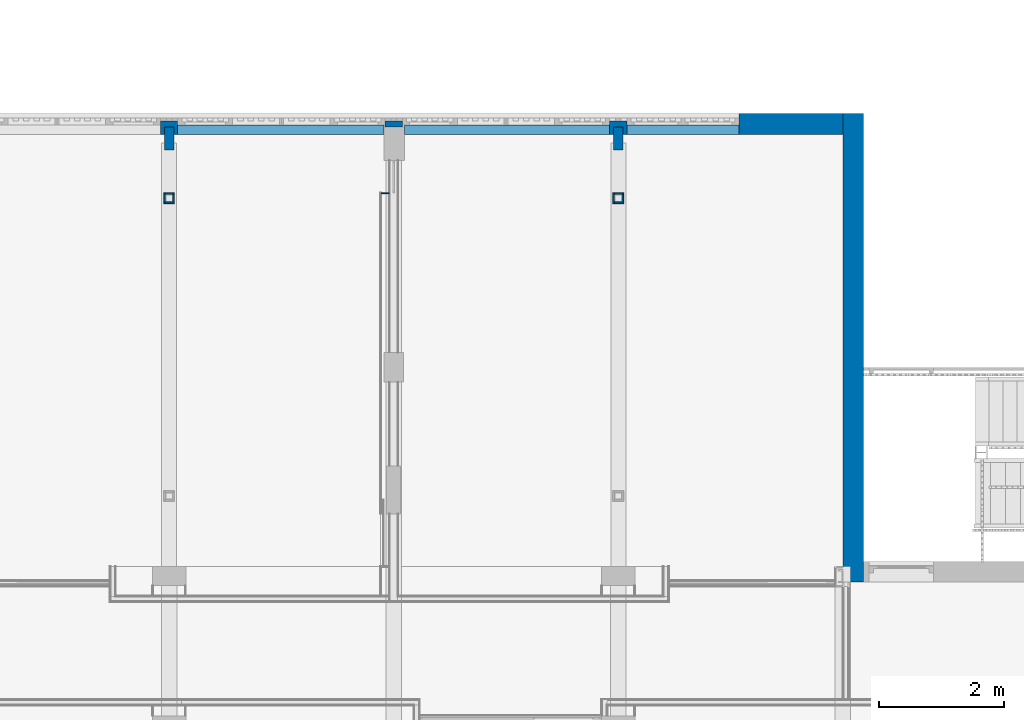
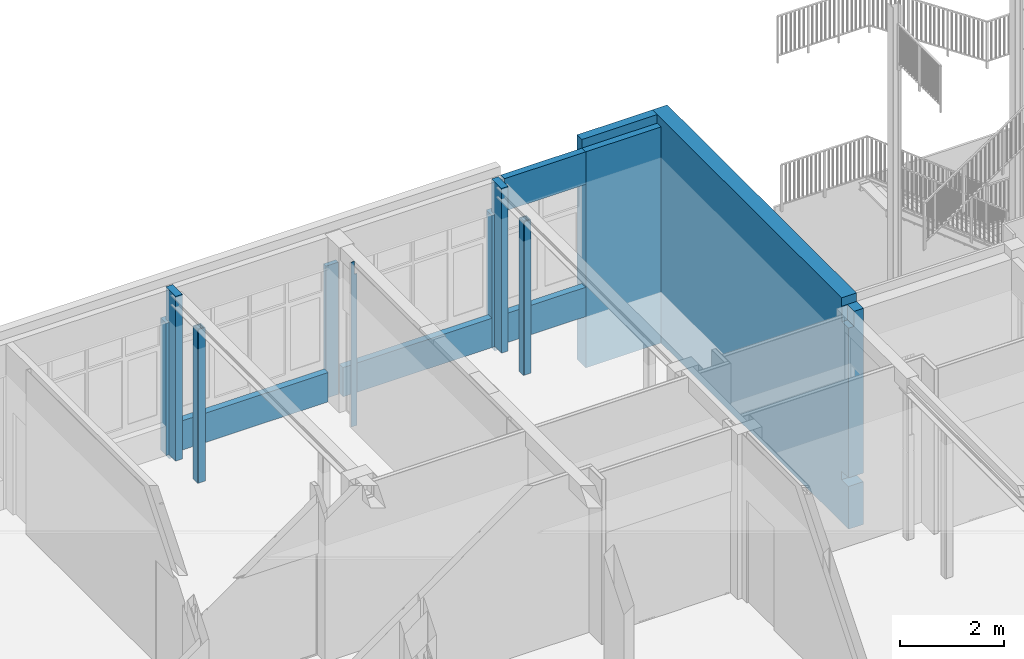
# One storey, part 97 of 135: 20 walls.
"""IFC2X3 building model written with IfcOpenShell, lengths in millimetres."""

import ifcopenshell
import ifcopenshell.guid

model = None  # the IFC model being written
_history = None  # IfcOwnerHistory: only IFC2X3 demands one
_inside = {}  # id of a spatial element -> (the spatial element, [elements in it])
_under = {}  # id of a project, library or spatial element -> (it, [spatial elements below it])
_declared = {}  # id of a project -> (the project, [libraries it declares])
_typed = {}  # id of a type object -> (the type object, [elements of that type])
_made_of = {}  # id of a material, layer set ... -> (it, [elements and type objects made of it])


def new_model(schema):
    """Start an empty IFC model of exactly this schema.

    Asked for "IFC4X3", IfcOpenShell would pick the latest addendum, in which some entities
    have other attributes; the version numbers below select the first issue.
    IFC2X3 requires an IfcOwnerHistory on every rooted entity: one is made here for all.
    """
    global model, _history
    if schema == "IFC4X3":
        model = ifcopenshell.file(schema_version=(4, 3, 0, 0))
    else:
        model = ifcopenshell.file(schema=schema)
    _inside.clear()
    _under.clear()
    _declared.clear()
    _typed.clear()
    _made_of.clear()
    _history = None
    if model.schema == "IFC2X3":
        org = make("IfcOrganization", Name="unknown")
        user = make(
            "IfcPersonAndOrganization",
            ThePerson=make("IfcPerson", FamilyName="unknown"),
            TheOrganization=org,
        )
        app = make(
            "IfcApplication",
            ApplicationDeveloper=org,
            Version="unknown",
            ApplicationFullName="unknown",
            ApplicationIdentifier="unknown",
        )
        _history = make(
            "IfcOwnerHistory",
            OwningUser=user,
            OwningApplication=app,
            ChangeAction="ADDED",
            CreationDate=0,
        )
    return model


def make(cls, **values):
    """One entity of the class cls with the attributes given. An attribute that is None is left unset."""
    return model.create_entity(
        cls, **{name: value for name, value in values.items() if value is not None}
    )


def entity(cls, *values):
    """Any entity or typed value of the class cls, its attributes in the order of the schema. None: left unset."""
    e = model.create_entity(cls)
    for i, value in enumerate(values):
        if value is not None:
            e[i] = value
    return e


def rooted(cls, **values):
    """An entity with a GlobalId (a new one), such as an element, a storey or a relation."""
    return make(cls, GlobalId=ifcopenshell.guid.new(), OwnerHistory=_history, **values)


def si_unit(unit_type, name, prefix=None):
    """IfcSIUnit, for example si_unit("LENGTHUNIT", "METRE", prefix="MILLI")."""
    return make("IfcSIUnit", UnitType=unit_type, Prefix=prefix, Name=name)


def converted_unit(unit_type, name, factor, base, dimensions=None, offset=None):
    """IfcConversionBasedUnit, such as the inch: factor (a typed value) times the base unit."""
    return make(
        "IfcConversionBasedUnit"
        if offset is None
        else "IfcConversionBasedUnitWithOffset",
        ConversionOffset=offset,
        Dimensions=None
        if dimensions is None
        else entity("IfcDimensionalExponents", *dimensions),
        UnitType=unit_type,
        Name=name,
        ConversionFactor=make(
            "IfcMeasureWithUnit", ValueComponent=factor, UnitComponent=base
        ),
    )


def derived_unit(unit_type, elements):
    """IfcDerivedUnit: a product of units, each with its exponent."""
    return make(
        "IfcDerivedUnit",
        Elements=[
            make("IfcDerivedUnitElement", Unit=unit, Exponent=power)
            for unit, power in elements
        ],
        UnitType=unit_type,
    )


def money_unit(currency):
    """IfcMonetaryUnit."""
    return make("IfcMonetaryUnit", Currency=currency)


def assignment(units):
    """IfcUnitAssignment: the units of a project."""
    return None if units is None else make("IfcUnitAssignment", Units=units)


def point(xyz):
    """IfcCartesianPoint."""
    return None if xyz is None else make("IfcCartesianPoint", Coordinates=xyz)


def direction(xyz):
    """IfcDirection."""
    return None if xyz is None else make("IfcDirection", DirectionRatios=xyz)


def frame(location, z_axis=None, x_axis=None):
    """IfcAxis2Placement3D, a coordinate frame: its origin and axes. An axis left out is left unset."""
    return make(
        "IfcAxis2Placement3D",
        Location=point(location),
        Axis=direction(z_axis),
        RefDirection=direction(x_axis),
    )


def origin_with_axes():
    """The frame at (0, 0, 0) with the z axis (0, 0, 1) and the x axis (1, 0, 0) written out."""
    return frame((0.0, 0.0, 0.0), z_axis=(0.0, 0.0, 1.0), x_axis=(1.0, 0.0, 0.0))


def place(relative_to, where):
    """IfcLocalPlacement: puts the frame where relative to a parent placement (None: the world)."""
    return make(
        "IfcLocalPlacement", PlacementRelTo=relative_to, RelativePlacement=where
    )


def context(
    kind, dimensions, precision=None, world=None, true_north=None, identifier=None
):
    """IfcGeometricRepresentationContext, for example the 3D "Model" context."""
    return make(
        "IfcGeometricRepresentationContext",
        ContextIdentifier=identifier,
        ContextType=kind,
        CoordinateSpaceDimension=dimensions,
        Precision=precision,
        WorldCoordinateSystem=world,
        TrueNorth=true_north,
    )


def subcontext(parent, identifier, kind, view, scale=None):
    """IfcGeometricRepresentationSubContext, for example "Body" below "Model"."""
    return make(
        "IfcGeometricRepresentationSubContext",
        ContextIdentifier=identifier,
        ContextType=kind,
        ParentContext=parent,
        TargetScale=scale,
        TargetView=view,
    )


def project(units=None, contexts=None):
    """IfcProject with its units and contexts."""
    return rooted(
        "IfcProject",
        Name="project",
        RepresentationContexts=contexts,
        UnitsInContext=assignment(units),
    )


def spatial(cls, under=None, at=None, **own):
    """A site, building, storey or space (cls), placed at a placement, below another one or the project."""
    s = rooted(cls, ObjectPlacement=at, **own)
    if under is not None:
        _under.setdefault(under.id(), (under, []))[1].append(s)
    return s


def faces_of(points, faces, orient=None, outer=None):
    """IfcFace entities. A face is a list of loops; a loop is a list of indices into points, from 0.

    orient and outer hold one flag for each loop. By default every Orientation is true, the
    first loop of a face is its IfcFaceOuterBound and the others are IfcFaceBound.
    """
    made = []
    for i, loops in enumerate(faces):
        bounds = []
        for j, loop in enumerate(loops):
            is_outer = j == 0 if outer is None else outer[i][j]
            bounds.append(
                make(
                    "IfcFaceOuterBound" if is_outer else "IfcFaceBound",
                    Bound=make("IfcPolyLoop", Polygon=[points[k] for k in loop]),
                    Orientation=True if orient is None else orient[i][j],
                )
            )
        made.append(make("IfcFace", Bounds=bounds))
    return made


def faceted_brep(points, faces, orient=None, outer=None, voids=None):
    """IfcFacetedBrep: a solid bounded by flat faces; with voids (closed shells), ...WithVoids."""
    shared = [point(p) for p in points]
    hull = make("IfcClosedShell", CfsFaces=faces_of(shared, faces, orient, outer))
    if voids is None:
        return make("IfcFacetedBrep", Outer=hull)
    return make(
        "IfcFacetedBrepWithVoids",
        Outer=hull,
        Voids=[
            make(cls, CfsFaces=faces_of(shared, fs, o, b)) for cls, fs, o, b in voids
        ],
    )


def shape(context_of_items, identifier, shape_type, items):
    """IfcShapeRepresentation: the items that make up one representation, for example the "Body"."""
    return make(
        "IfcShapeRepresentation",
        ContextOfItems=context_of_items,
        RepresentationIdentifier=identifier,
        RepresentationType=shape_type,
        Items=items,
    )


def material(Name=None, Category=None):
    """IfcMaterial."""
    return make("IfcMaterial", Name=Name, Category=Category)


def made_of(thing, what):
    """Note that an element or type object is made of a material, layer set ...; save() writes the relation."""
    if what is not None:
        _made_of.setdefault(what.id(), (what, []))[1].append(thing)
    return thing


def type_object(cls, material=None, **own):
    """A type object (cls), such as IfcWallType, which elements share."""
    return made_of(rooted(cls, **own), material)


def element(
    cls,
    number,
    at=None,
    inside=None,
    cuts=None,
    type_object=None,
    material=None,
    context=None,
    identifier="Body",
    shape_type=None,
    held_by="IfcProductDefinitionShape",
    body=None,
    shapes=None,
    **own,
):
    """One element of the class cls, such as IfcWall. Its Tag is "e" and its number.

    at: its placement. inside: the storey or other place that contains it. cuts: it is an
    opening in that element (IfcRelVoidsElement). A single representation is given by context,
    identifier, shape_type and body (its items); several are given by shapes. held_by: the class
    of the entity that holds the representations. save() writes the other relations.
    """
    e = rooted(cls, Tag="e%d" % number, ObjectPlacement=at, **own)
    if body is not None:
        shapes = [shape(context, identifier, shape_type, body)]
    if shapes is not None:
        e.Representation = make(held_by, Representations=shapes)
    if inside is not None:
        _inside.setdefault(inside.id(), (inside, []))[1].append(e)
    if cuts is not None:
        rooted(
            "IfcRelVoidsElement", RelatingBuildingElement=cuts, RelatedOpeningElement=e
        )
    if type_object is not None:
        _typed.setdefault(type_object.id(), (type_object, []))[1].append(e)
    return made_of(e, material)


def aggregate(whole, parts):
    """IfcRelAggregates: a whole, such as a stair, and the parts it consists of."""
    return rooted("IfcRelAggregates", RelatingObject=whole, RelatedObjects=parts)


def save(model, path):
    """Write the relations noted so far, then the file.

    IfcRelAggregates (storeys below a building ...), IfcRelContainedInSpatialStructure (elements
    in a storey), IfcRelDefinesByType, IfcRelAssociatesMaterial and IfcRelDeclares: one each for
    every whole, place, type object, material and project.
    """
    for whole, parts in _under.values():
        aggregate(whole, parts)
    for where, things in _inside.values():
        rooted(
            "IfcRelContainedInSpatialStructure",
            RelatedElements=things,
            RelatingStructure=where,
        )
    for kind, things in _typed.values():
        rooted("IfcRelDefinesByType", RelatedObjects=things, RelatingType=kind)
    for what, things in _made_of.values():
        rooted("IfcRelAssociatesMaterial", RelatedObjects=things, RelatingMaterial=what)
    for by, libraries in _declared.values():
        rooted("IfcRelDeclares", RelatingContext=by, RelatedDefinitions=libraries)
    model.write(path)


model = new_model("IFC2X3")

# Units and contexts
model_context = context("Model", 3, precision=0.01, world=origin_with_axes(), true_north=direction((0.0, 1.0)))
body_context = subcontext(model_context, "Body", "Model", "MODEL_VIEW")
ifc_project = project(units=[si_unit("LENGTHUNIT", "METRE", prefix="MILLI"), si_unit("AREAUNIT", "SQUARE_METRE"), si_unit("VOLUMEUNIT", "CUBIC_METRE"), converted_unit("PLANEANGLEUNIT", "DEGREE", entity("IfcPlaneAngleMeasure", 0.0174532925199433), si_unit("PLANEANGLEUNIT", "RADIAN"), dimensions=[0, 0, 0, 0, 0, 0, 0]), money_unit("EUR"), converted_unit("TIMEUNIT", "Year", entity("IfcTimeMeasure", 31557600.0), si_unit("TIMEUNIT", "SECOND"), dimensions=[0, 0, 1, 0, 0, 0, 0]), si_unit("MASSUNIT", "GRAM", prefix="KILO"), si_unit("THERMODYNAMICTEMPERATUREUNIT", "DEGREE_CELSIUS"), si_unit("LUMINOUSINTENSITYUNIT", "LUMEN"), si_unit("ENERGYUNIT", "JOULE", prefix="MEGA"), derived_unit("THERMALCONDUCTANCEUNIT", [(si_unit("POWERUNIT", "WATT"), 1), (si_unit("LENGTHUNIT", "METRE"), -1), (si_unit("THERMODYNAMICTEMPERATUREUNIT", "KELVIN"), -1)]), derived_unit("SPECIFICHEATCAPACITYUNIT", [(si_unit("ENERGYUNIT", "JOULE"), 1), (si_unit("MASSUNIT", "GRAM", prefix="KILO"), -1), (si_unit("THERMODYNAMICTEMPERATUREUNIT", "KELVIN"), -1)]), derived_unit("MASSDENSITYUNIT", [(si_unit("MASSUNIT", "GRAM", prefix="KILO"), 1), (si_unit("VOLUMEUNIT", "CUBIC_METRE"), -1)])], contexts=[model_context])

# Site, building, storey
site_placement = place(None, origin_with_axes())
site = spatial("IfcSite", under=ifc_project, at=site_placement, Name="Site", CompositionType="ELEMENT")
building_placement = place(site_placement, origin_with_axes())
building = spatial("IfcBuilding", under=site, at=building_placement, Name="Naam gebouw", CompositionType="ELEMENT")
storey_placement = place(building_placement, origin_with_axes())
storey = spatial("IfcBuildingStorey", under=building, at=storey_placement, Name="Begane grond N", CompositionType="ELEMENT", Elevation=0.0)

# Walls
ifc_material_1 = material(Name="ALG - CONSTRUCTIEF")
wall_type_1 = type_object("IfcWallType", Name="ALG - CONSTRUCTIEF 150", PredefinedType="NOTDEFINED")
for number, where, z_axis, x_axis, name in (
    (1, (43199.99999999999, 27250.91242510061, -100.0), (0.0, 0.0, 1.0), (0.0, 1.0, 0.0), "_Wand-x"),
    (2, (50399.99999999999, 27250.91242510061, -100.0), (0.0, 0.0, 1.0), (0.0, 1.0, 0.0), "_Wand-x"),
):
    element("IfcWall", number, at=place(storey_placement, frame(where, z_axis=z_axis, x_axis=x_axis)), inside=storey, type_object=wall_type_1, material=ifc_material_1, Name=name, context=body_context, shape_type="Brep", body=[
        faceted_brep([(375.0, 75.00000000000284, 0.0), (375.0, 75.00000000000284, 3950.0), (375.0, -75.00000000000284, 3950.0), (375.0, -75.00000000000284, 0.0), (0.0, 75.00000000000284, 100.0), (0.0, 75.00000000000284, 3950.0), (255.0000000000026, 75.00000000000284, 0.0), (255.0000000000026, 75.00000000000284, 100.0), (0.0, -75.00000000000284, 3950.0), (0.0, -75.00000000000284, 100.0), (255.0000000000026, -75.00000000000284, 100.0), (255.0000000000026, -75.00000000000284, 0.0)], [[[0, 1, 2, 3]], [[4, 5, 1, 0, 6, 7]], [[5, 8, 2, 1]], [[3, 2, 8, 9, 10, 11]], [[3, 11, 6, 0]], [[9, 8, 5, 4]], [[6, 11, 10, 7]], [[7, 10, 9, 4]]]),
    ])
wall_type_2 = type_object("IfcWallType", Name="ALG - CONSTRUCTIEF 330", PredefinedType="NOTDEFINED")
wall_1_placement = place(storey_placement, frame((54000.0, 27505.91242510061, -1200.0), z_axis=(0.0, 0.0, 1.0), x_axis=(0.0, -1.0, 0.0)))
element("IfcWall", 3, at=wall_1_placement, inside=storey, type_object=wall_type_2, material=ifc_material_1, Name="_Wand-x", context=body_context, shape_type="Brep", body=[
    faceted_brep([(6930.0, 0.0, 5050.000000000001), (6930.0, 125.0, 5050.000000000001), (7180.000000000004, 125.0, 5050.000000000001), (7180.000000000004, 329.9999999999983, 5050.000000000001), (6914.999999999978, 329.9999999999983, 5050.000000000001), (6914.999999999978, 0.0, 5050.000000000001), (6930.0, 125.0, 4699.999993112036), (6930.0, 0.0, 4699.999993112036), (7180.000000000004, 125.0, 4699.999993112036), (7180.000000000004, 0.0, 4699.999993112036), (7180.000000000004, 0.0, 1200.0), (7180.000000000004, 329.9999999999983, 1200.0), (-329.9999999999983, 329.9999999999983, 5250.000000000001), (6914.999999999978, 329.9999999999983, 5250.000000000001), (6915.000000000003, 329.9999999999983, 1200.0), (6915.000000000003, 329.9999999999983, 1000.0), (7180.000000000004, 329.9999999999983, 999.9999999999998), (7180.000000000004, 329.9999999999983, 0.0), (-329.9999999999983, 329.9999999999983, 0.0), (6914.999999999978, 0.0, 5250.000000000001), (-329.9999999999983, 0.0, 5250.000000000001), (-329.9999999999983, 0.0, 0.0), (7180.000000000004, 0.0, 0.0), (7180.000000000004, 0.0, 1000.0), (6915.000000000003, 0.0, 1000.0), (6915.000000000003, 0.0, 1200.0)], [[[0, 1, 2, 3, 4, 5]], [[6, 1, 0, 7]], [[8, 2, 1, 6]], [[2, 8, 9, 10, 11, 3]], [[12, 13, 4, 3, 11, 14, 15, 16, 17, 18]], [[19, 5, 4, 13]], [[9, 7, 0, 5, 19, 20, 21, 22, 23, 24, 25, 10]], [[7, 9, 8, 6]], [[10, 25, 14, 11]], [[12, 20, 19, 13]], [[25, 24, 15, 14]], [[24, 23, 16, 15]], [[22, 17, 16, 23]], [[22, 21, 18, 17]], [[21, 20, 12, 18]]]),
])
wall_2_placement = place(storey_placement, frame((54000.0, 27505.91242510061, -1200.0), z_axis=(0.0, 0.0, 1.0), x_axis=(-1.0, 0.0, 0.0)))
element("IfcWall", 4, at=wall_2_placement, inside=storey, type_object=wall_type_2, material=ifc_material_1, Name="_Wand-x", context=body_context, shape_type="Brep", body=[
    faceted_brep([(1662.500000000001, -329.9999999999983, 5250.000000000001), (1662.500000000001, -145.9999999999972, 5250.000000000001), (0.0, -145.9999999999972, 5250.000000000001), (0.0, -329.9999999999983, 5250.000000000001), (1662.500000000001, 0.0, 5050.000000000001), (1662.500000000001, -145.9999999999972, 5050.000000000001), (1662.500000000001, -330.0000000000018, 0.0), (1662.500000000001, 0.0, 0.0), (0.0, -145.9999999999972, 5050.000000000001), (0.0, 0.0, 5050.000000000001), (0.0, 0.0, 0.0), (0.0, -329.9999999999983, 0.0)], [[[0, 1, 2, 3]], [[4, 5, 1, 0, 6, 7]], [[5, 8, 2, 1]], [[2, 8, 9, 10, 11, 3]], [[0, 3, 11, 6]], [[4, 9, 8, 5]], [[6, 11, 10, 7]], [[10, 9, 4, 7]]]),
])
wall_type_3 = type_object("IfcWallType", Name="ALG - CONSTRUCTIEF 146", PredefinedType="NOTDEFINED")
wall_3_placement = place(storey_placement, frame((52337.49999999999, 27505.91242510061, 3090.0), z_axis=(0.0, 0.0, 1.0), x_axis=(-1.0, 0.0, 0.0)))
element("IfcWall", 5, at=wall_3_placement, inside=storey, type_object=wall_type_3, material=ifc_material_1, Name="_Wand-x", context=body_context, shape_type="Brep", body=[
    faceted_brep([(0.0, -146.0000000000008, 760.0000000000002), (1799.99999999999, -146.0000000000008, 760.0000000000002), (1799.99999999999, 0.0, 760.0000000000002), (0.0, 0.0, 760.0000000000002), (0.0, -146.0000000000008, 0.0), (1799.99999999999, -146.0000000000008, 0.0), (1799.99999999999, 0.0, 0.0), (0.0, 0.0, 0.0)], [[[0, 1, 2, 3]], [[4, 5, 1, 0]], [[2, 1, 5, 6]], [[3, 2, 6, 7]], [[4, 0, 3, 7]], [[7, 6, 5, 4]]]),
])
wall_4_placement = place(storey_placement, frame((50262.49999999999, 27505.91242510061, 0.0), z_axis=(0.0, 0.0, 1.0), x_axis=(-1.0, 0.0, 0.0)))
element("IfcWall", 6, at=wall_4_placement, inside=storey, type_object=wall_type_3, material=ifc_material_1, Name="_Wand-x", context=body_context, shape_type="Brep", body=[
    faceted_brep([(0.0, 0.0, 685.2268951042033), (0.0, -146.0000000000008, 685.2268951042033), (3290.197781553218, -146.0000000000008, 685.2268951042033), (3290.197781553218, 0.0, 685.2268951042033), (0.0, 0.0, 0.0), (0.0, -146.0000000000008, 0.0), (3290.197781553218, -146.0000000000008, 0.0), (3290.197781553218, 0.0, 0.0)], [[[0, 1, 2, 3]], [[4, 5, 1, 0]], [[1, 5, 6, 2]], [[7, 3, 2, 6]], [[4, 0, 3, 7]], [[5, 4, 7, 6]]]),
])
wall_5_placement = place(storey_placement, frame((46642.30221844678, 27505.91242510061, 0.0), z_axis=(0.0, 0.0, 1.0), x_axis=(-1.0, 0.0, 0.0)))
element("IfcWall", 7, at=wall_5_placement, inside=storey, type_object=wall_type_3, material=ifc_material_1, Name="_Wand-x", context=body_context, shape_type="Brep", body=[
    faceted_brep([(0.0, 0.0, 685.2268951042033), (0.0, -146.0000000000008, 685.2268951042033), (3304.802218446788, -146.0000000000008, 685.2268951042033), (3304.802218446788, 0.0, 685.2268951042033), (0.0, 0.0, 0.0), (0.0, -146.0000000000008, 0.0), (3304.802218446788, -146.0000000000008, 0.0), (3304.802218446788, 0.0, 0.0)], [[[0, 1, 2, 3]], [[4, 5, 1, 0]], [[1, 5, 6, 2]], [[7, 3, 2, 6]], [[4, 0, 3, 7]], [[5, 4, 7, 6]]]),
])
wall_6_placement = place(storey_placement, frame((52337.49999999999, 27505.91242510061, 0.0), z_axis=(0.0, 0.0, 1.0), x_axis=(-1.0, 0.0, 0.0)))
element("IfcWall", 8, at=wall_6_placement, inside=storey, type_object=wall_type_3, material=ifc_material_1, Name="_Wand-x", context=body_context, shape_type="Brep", body=[
    faceted_brep([(0.0, -146.0000000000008, 685.2268951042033), (1799.99999999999, -146.0000000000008, 685.2268951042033), (1799.99999999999, 0.0, 685.2268951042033), (0.0, 0.0, 685.2268951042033), (0.0, -146.0000000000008, 0.0), (1799.99999999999, -146.0000000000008, 0.0), (1799.99999999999, 0.0, 0.0), (0.0, 0.0, 0.0)], [[[0, 1, 2, 3]], [[4, 5, 1, 0]], [[2, 1, 5, 6]], [[3, 2, 6, 7]], [[4, 0, 3, 7]], [[7, 6, 5, 4]]]),
])
ifc_material_2 = material(Name="Gipsplaat")
wall_type_4 = type_object("IfcWallType", Name="Metalstud 100 enkel 100", PredefinedType="NOTDEFINED")
wall_7_placement = place(storey_placement, frame((46799.99999999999, 26565.9124251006, 0.0), z_axis=(0.0, 0.0, 1.0), x_axis=(-1.0, 0.0, 0.0)))
element("IfcWall", 9, at=wall_7_placement, inside=storey, type_object=wall_type_4, material=ifc_material_2, Name="_Wand-x", context=body_context, shape_type="Brep", body=[
    faceted_brep([(199.9999999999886, 0.0, 3850.0), (124.9999999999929, 0.0, 3850.000049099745), (124.9999999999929, 0.0, 3550.0), (74.99999999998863, 0.0, 3550.0), (74.99999999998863, 0.0, 0.0), (199.9999999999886, 0.0, 0.0), (199.9999999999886, 12.49999999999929, 3850.0), (124.9999999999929, 12.49999999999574, 3850.000049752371), (124.9999999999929, 12.49999999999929, 3550.0), (74.99999999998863, 12.49999999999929, 3550.0), (74.99999999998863, 12.49999999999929, 0.0), (199.9999999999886, 12.49999999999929, 0.0)], [[[0, 1, 2, 3, 4, 5]], [[6, 7, 1, 0]], [[8, 2, 1, 7]], [[8, 9, 3, 2]], [[4, 3, 9, 10]], [[4, 10, 11, 5]], [[5, 11, 6, 0]], [[9, 8, 7, 6, 11, 10]]]),
])
wall_type_5 = type_object("IfcWallType", Name="Gipsplaat 25", PredefinedType="NOTDEFINED")
for number, where, z_axis, x_axis, name in (
    (10, (43114.99999999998, 26395.91242510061, 0.0), (0.0, 0.0, 1.0), (0.0, 1.0, 0.0), "_Wand-x"),
    (11, (50314.99999999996, 26395.91242510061, 0.0), (0.0, 0.0, 1.0), (0.0, 1.0, 0.0), "_Wand-x"),
):
    element("IfcWall", number, at=place(storey_placement, frame(where, z_axis=z_axis, x_axis=x_axis)), inside=storey, type_object=wall_type_5, material=ifc_material_2, Name=name, context=body_context, shape_type="Brep", body=[
        faceted_brep([(169.999999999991, -24.99999999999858, 3590.000000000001), (169.999999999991, 0.0, 3590.000000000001), (0.0, 0.0, 3590.000000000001), (0.0, -24.99999999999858, 3590.000000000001), (169.999999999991, -24.99999999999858, 0.0), (169.999999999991, 0.0, 0.0), (0.0, 0.0, 0.0), (0.0, -24.99999999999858, 0.0)], [[[0, 1, 2, 3]], [[1, 0, 4, 5]], [[1, 5, 6, 2]], [[7, 3, 2, 6]], [[4, 0, 3, 7]], [[5, 4, 7, 6]]]),
    ])
wall_8_placement = place(storey_placement, frame((50314.99999999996, 26395.91242510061, 0.0), z_axis=(0.0, 0.0, 1.0), x_axis=(1.0, 0.0, 0.0)))
element("IfcWall", 12, at=wall_8_placement, inside=storey, type_object=wall_type_5, material=ifc_material_2, Name="_Wand-x", context=body_context, shape_type="Brep", body=[
    faceted_brep([(169.9999999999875, 25.00000000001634, 0.0), (169.9999999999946, 0.0, 0.0), (24.99999999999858, 0.0, 0.0), (24.99999999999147, 25.00000000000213, 0.0), (169.9999999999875, 25.00000000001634, 3590.000000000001), (169.9999999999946, 0.0, 3590.000000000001), (24.99999999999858, 0.0, 3590.000000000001), (24.99999999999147, 25.00000000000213, 3590.000000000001)], [[[0, 1, 2, 3]], [[1, 0, 4, 5]], [[1, 5, 6, 2]], [[7, 3, 2, 6]], [[4, 0, 3, 7]], [[5, 4, 7, 6]]]),
])
wall_9_placement = place(storey_placement, frame((43284.99999999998, 26395.9124251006, 0.0), z_axis=(0.0, 0.0, 1.0), x_axis=(0.0, 1.0, 0.0)))
element("IfcWall", 13, at=wall_9_placement, inside=storey, type_object=wall_type_5, material=ifc_material_2, Name="_Wand-x", context=body_context, shape_type="Brep", body=[
    faceted_brep([(145.0000000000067, 25.00000000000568, 0.0), (145.0000000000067, 0.0, 0.0), (24.99999999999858, 0.0, 0.0), (25.00000000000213, 24.99999999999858, 0.0), (145.0000000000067, 25.00000000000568, 3590.000000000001), (145.0000000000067, 0.0, 3590.000000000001), (24.99999999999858, 0.0, 3590.000000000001), (25.00000000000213, 24.99999999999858, 3590.000000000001)], [[[0, 1, 2, 3]], [[1, 0, 4, 5]], [[1, 5, 6, 2]], [[7, 3, 2, 6]], [[4, 0, 3, 7]], [[5, 4, 7, 6]]]),
])
wall_10_placement = place(storey_placement, frame((43114.99999999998, 26565.9124251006, 0.0), z_axis=(0.0, 0.0, 1.0), x_axis=(1.0, 0.0, 0.0)))
element("IfcWall", 14, at=wall_10_placement, inside=storey, type_object=wall_type_5, material=ifc_material_2, Name="_Wand-x", context=body_context, shape_type="Brep", body=[
    faceted_brep([(170.0000000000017, -24.99999999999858, 3590.000000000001), (170.0000000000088, 0.0, 3590.000000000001), (24.99999999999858, 0.0, 3590.000000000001), (24.99999999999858, -24.99999999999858, 3590.000000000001), (170.0000000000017, -24.99999999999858, 0.0), (170.0000000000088, 0.0, 0.0), (24.99999999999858, 0.0, 0.0), (24.99999999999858, -24.99999999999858, 0.0)], [[[0, 1, 2, 3]], [[1, 0, 4, 5]], [[1, 5, 6, 2]], [[7, 3, 2, 6]], [[4, 0, 3, 7]], [[5, 4, 7, 6]]]),
])
wall_11_placement = place(storey_placement, frame((50484.99999999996, 26395.9124251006, 0.0), z_axis=(0.0, 0.0, 1.0), x_axis=(0.0, 1.0, 0.0)))
element("IfcWall", 15, at=wall_11_placement, inside=storey, type_object=wall_type_5, material=ifc_material_2, Name="_Wand-x", context=body_context, shape_type="Brep", body=[
    faceted_brep([(145.0000000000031, 25.00000000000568, 0.0), (145.0000000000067, 0.0, 0.0), (24.99999999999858, 0.0, 0.0), (24.99999999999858, 24.99999999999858, 0.0), (145.0000000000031, 25.00000000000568, 3590.000000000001), (145.0000000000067, 0.0, 3590.000000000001), (24.99999999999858, 0.0, 3590.000000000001), (24.99999999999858, 24.99999999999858, 3590.000000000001)], [[[0, 1, 2, 3]], [[1, 0, 4, 5]], [[1, 5, 6, 2]], [[7, 3, 2, 6]], [[4, 0, 3, 7]], [[5, 4, 7, 6]]]),
])
wall_12_placement = place(storey_placement, frame((50314.99999999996, 26565.9124251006, 0.0), z_axis=(0.0, 0.0, 1.0), x_axis=(1.0, 0.0, 0.0)))
element("IfcWall", 16, at=wall_12_placement, inside=storey, type_object=wall_type_5, material=ifc_material_2, Name="_Wand-x", context=body_context, shape_type="Brep", body=[
    faceted_brep([(170.0000000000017, -24.99999999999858, 3590.000000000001), (170.0000000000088, 0.0, 3590.000000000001), (24.99999999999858, 0.0, 3590.000000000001), (24.99999999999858, -24.99999999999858, 3590.000000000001), (170.0000000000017, -24.99999999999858, 0.0), (170.0000000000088, 0.0, 0.0), (24.99999999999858, 0.0, 0.0), (24.99999999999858, -24.99999999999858, 0.0)], [[[0, 1, 2, 3]], [[1, 0, 4, 5]], [[1, 5, 6, 2]], [[7, 3, 2, 6]], [[4, 0, 3, 7]], [[5, 4, 7, 6]]]),
])
wall_13_placement = place(storey_placement, frame((43114.99999999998, 26395.91242510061, 0.0), z_axis=(0.0, 0.0, 1.0), x_axis=(1.0, 0.0, 0.0)))
element("IfcWall", 17, at=wall_13_placement, inside=storey, type_object=wall_type_5, material=ifc_material_2, Name="_Wand-x", context=body_context, shape_type="Brep", body=[
    faceted_brep([(169.9999999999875, 25.00000000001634, 0.0), (169.9999999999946, 0.0, 0.0), (24.99999999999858, 0.0, 0.0), (24.99999999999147, 25.00000000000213, 0.0), (169.9999999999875, 25.00000000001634, 3590.000000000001), (169.9999999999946, 0.0, 3590.000000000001), (24.99999999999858, 0.0, 3590.000000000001), (24.99999999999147, 25.00000000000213, 3590.000000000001)], [[[0, 1, 2, 3]], [[1, 0, 4, 5]], [[1, 5, 6, 2]], [[7, 3, 2, 6]], [[4, 0, 3, 7]], [[5, 4, 7, 6]]]),
])
ifc_material_3 = material(Name="ALG - GEVEL")
wall_type_6 = type_object("IfcWallType", Name="ALG - GEVEL 260", PredefinedType="NOTDEFINED")
wall_14_placement = place(storey_placement, frame((46937.49999999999, 27765.91242510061, 0.0), z_axis=(0.0, 0.0, 1.0), x_axis=(-1.0, 0.0, 0.0)))
element("IfcWall", 18, at=wall_14_placement, inside=storey, type_object=wall_type_6, material=ifc_material_3, Name="_Wand-x", context=body_context, shape_type="Brep", body=[
    faceted_brep([(275.0000000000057, 43.99999999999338, 3090.000000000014), (275.0000000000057, 140.0000000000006, 3090.000000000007), (0.0, 140.0000000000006, 3090.000000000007), (0.0, 43.99999999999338, 3090.000000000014), (275.0000000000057, 43.99999999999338, 0.0), (275.0000000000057, 140.0000000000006, 0.0), (0.0, 140.0000000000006, 0.0), (0.0, 43.99999999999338, 0.0)], [[[0, 1, 2, 3]], [[4, 5, 1, 0]], [[5, 6, 2, 1]], [[3, 2, 6, 7]], [[3, 7, 4, 0]], [[7, 6, 5, 4]]]),
])
wall_15_placement = place(storey_placement, frame((43337.49999999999, 27765.91242510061, 0.0), z_axis=(0.0, 0.0, 1.0), x_axis=(-1.0, 0.0, 0.0)))
element("IfcWall", 19, at=wall_15_placement, inside=storey, type_object=wall_type_6, material=ifc_material_3, Name="_Wand-x", context=body_context, shape_type="Brep", body=[
    faceted_brep([(0.0, 43.99999999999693, 3090.000000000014), (0.0, 43.99999999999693, 0.0), (275.0000000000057, 43.99999999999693, 0.0), (275.0000000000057, 43.99999999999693, 3090.000000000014), (0.0, 260.0000000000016, 0.0), (0.0, 260.0000000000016, 3090.0), (275.0000000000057, 260.0000000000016, 0.0), (275.0000000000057, 260.0000000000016, 3090.0)], [[[0, 1, 2, 3]], [[4, 1, 0, 5]], [[2, 1, 4, 6]], [[7, 3, 2, 6]], [[0, 3, 7, 5]], [[4, 5, 7, 6]]]),
])
wall_16_placement = place(storey_placement, frame((50537.5, 27765.91242510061, 0.0), z_axis=(0.0, 0.0, 1.0), x_axis=(-1.0, 0.0, 0.0)))
element("IfcWall", 20, at=wall_16_placement, inside=storey, type_object=wall_type_6, material=ifc_material_3, Name="_Wand-x", context=body_context, shape_type="Brep", body=[
    faceted_brep([(0.0, 43.99999999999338, 3090.000000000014), (0.0, 43.99999999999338, 0.0), (275.0000000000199, 43.99999999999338, 0.0), (275.0000000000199, 43.99999999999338, 3090.000000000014), (0.0, 260.0000000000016, 0.0), (0.0, 260.0000000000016, 3090.0), (275.0000000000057, 260.0000000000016, 0.0), (275.0000000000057, 260.0000000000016, 3090.0)], [[[0, 1, 2, 3]], [[4, 1, 0, 5]], [[2, 1, 4, 6]], [[7, 3, 2, 6]], [[0, 3, 7, 5]], [[4, 5, 7, 6]]]),
])

save(model, "model.ifc")
